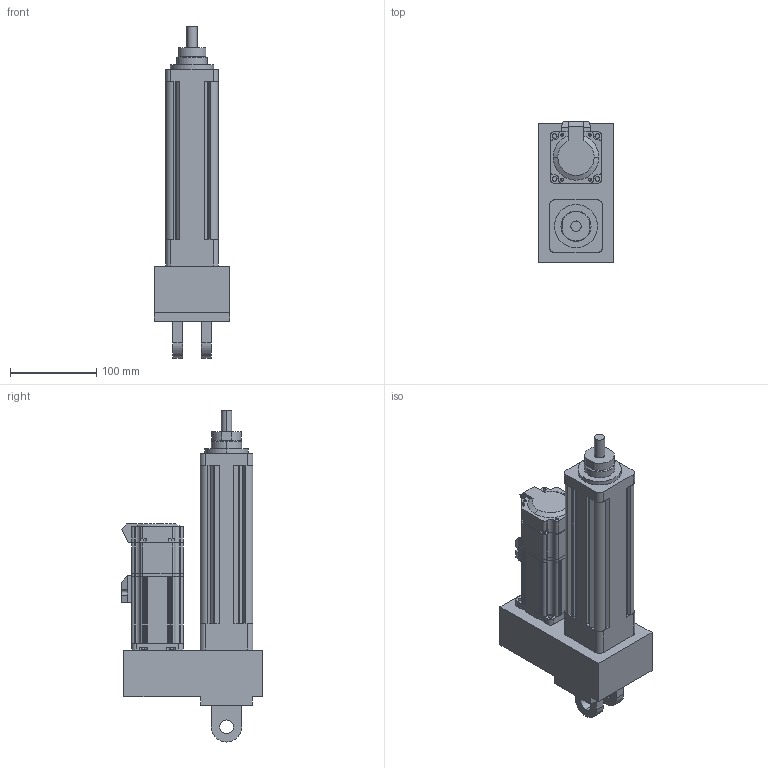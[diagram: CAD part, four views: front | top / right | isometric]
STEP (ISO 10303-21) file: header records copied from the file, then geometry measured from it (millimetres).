
FILE_DESCRIPTION (( 'STEP AP203' ), '1' );
FILE_NAME ('S2殏殿綴帣蝓假蚾.STEP', '2024-05-27T05:11:48', ( '' ), ( '' ), 'SwSTEP 2.0', 'SolidWorks 2018', '' );
FILE_SCHEMA (( 'CONFIG_CONTROL_DESIGN' ));
Length unit declared in the file: millimetre
Products named in the file (3): S2殏殿綴帣蝓假蚾; 陓豎400W 湍价陬; S2殏殿綴帣蝓
Assembly tree (2 placements, depth 2):
  S2殏殿綴帣蝓假蚾
    S2殏殿綴帣蝓
    陓豎400W 湍价陬
Bounding box: 88 x 164 x 384.5 mm (x, y, z)
Volume: 1248250.5 mm3; surface area: 266353.1 mm2
Topology: 1 solids, 28 shells, 739 faces, 2107 edges, 1433 vertices
Faces by surface type: plane 373, cylinder 347, cone 11, torus 8
Entity records: 24521 total; most frequent: DIRECTION 4435, CARTESIAN_POINT 4385, ORIENTED_EDGE 3718, EDGE_CURVE 2107, AXIS2_PLACEMENT_3D 1599, VERTEX_POINT 1433, VECTOR 1237, LINE 1237
